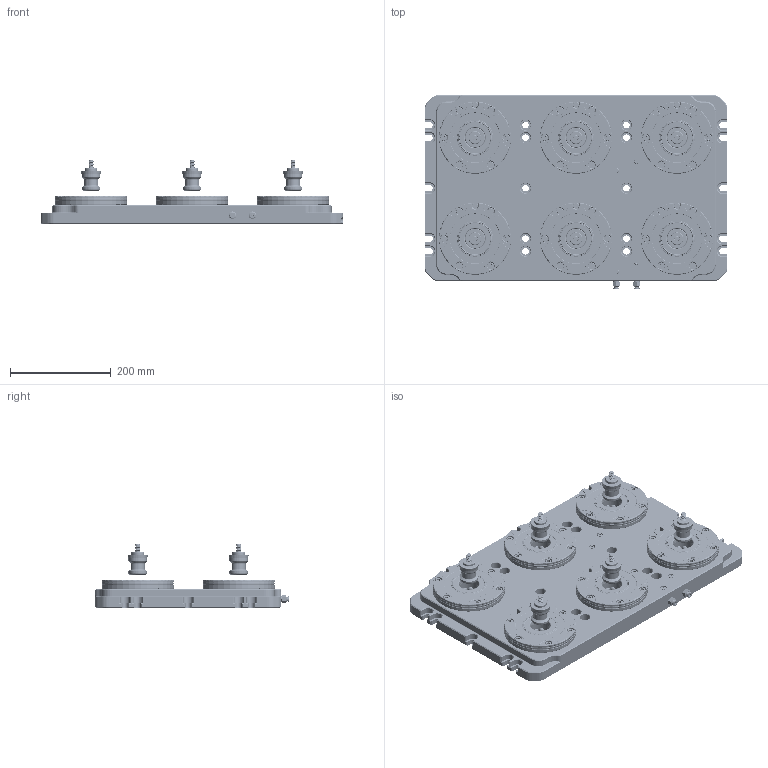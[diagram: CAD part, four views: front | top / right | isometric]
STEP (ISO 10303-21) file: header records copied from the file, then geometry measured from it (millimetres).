
FILE_DESCRIPTION(/* description */ (''),/* implementation_level */ '2;1');
FILE_NAME(/* name */ 'KSZ115-T6.stp',/* time_stamp */ '2025-06-23T11:13:36+08:00',/* author */ (''),/* organization */ (''),/* preprocessor_version */ 'ST-DEVELOPER v20',/* originating_system */ 'SIEMENS PLM Software NX2406.6001',/* authorisation */ '');
FILE_SCHEMA (('AUTOMOTIVE_DESIGN { 1 0 10303 214 3 1 1 1 }'));
Products named in the file (1): KSZ115-T6_objects
Bounding box: 600 x 383.15 x 125.5 mm (x, y, z)
Volume: 8386098.4 mm3; surface area: 1411158.7 mm2
Topology: 47 solids, 59 shells, 7062 faces, 18051 edges, 11751 vertices
Faces by surface type: plane 3109, extrusion 1524, cylinder 1211, cone 623, torus 288, bspline 247, sphere 60
Full cylindrical faces by diameter (mm): 0.5 x6, 3 x24, 5 x20, 5.1 x7, 5.8 x2, 6.8 x306, 7 x6, 8 x2, 8.5 x38, 8.6 x4, 9.7 x4, 10 x116, 10.5 x66, 11.7 x2, 12 x48, 13 x14, 14 x36, 15 x90, 18 x6, 20 x10, 25 x6, 28 x6, 36.952 x12, 37.51 x6, 52 x18, 55.4 x6, 64 x18, 67.4 x6, 100 x12, 110.4 x12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
Entity records: 548009 total; most frequent: CARTESIAN_POINT 396854, ORIENTED_EDGE 29010, DIRECTION 20848, EDGE_CURVE 14505, VERTEX_POINT 10057, EDGE_LOOP 8484, B_SPLINE_CURVE_WITH_KNOTS 8448, AXIS2_PLACEMENT_3D 7019
